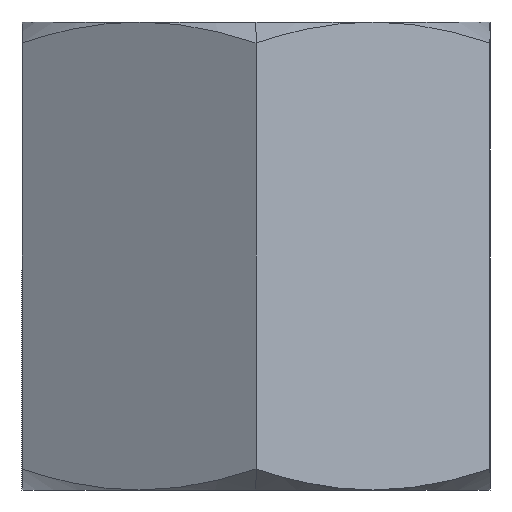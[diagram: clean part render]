
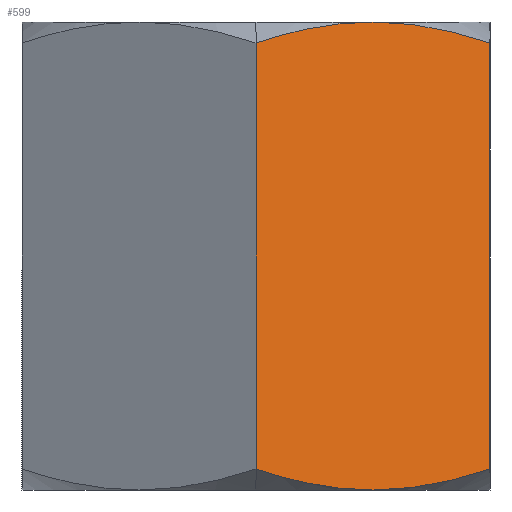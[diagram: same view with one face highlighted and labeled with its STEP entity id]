
A CAD part, left-side view. The second image highlights one B-rep face of the part: STEP entity #599.
In plain terms, the highlighted planar face has unit normal (-0.866, -0.5, 0).
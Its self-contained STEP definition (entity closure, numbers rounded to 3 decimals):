
#18 = CARTESIAN_POINT ( 'NONE',  ( -2.498, -3.674, -3.752 ) ) ;
#24 = CARTESIAN_POINT ( 'NONE',  ( -4.619, 0., -4. ) ) ;
#36 = CARTESIAN_POINT ( 'NONE',  ( -3.072, -2.678, 3.966 ) ) ;
#39 = ORIENTED_EDGE ( 'NONE', *, *, #374, .F. ) ;
#49 = B_SPLINE_CURVE_WITH_KNOTS ( 'NONE', 3,
 ( #287, #276, #553, #482, #18, #284 ),
 .UNSPECIFIED., .F., .F.,
 ( 4, 2, 4 ),
 ( 0.002, 0.004, 0.005 ),
 .UNSPECIFIED. ) ;
#71 = FACE_OUTER_BOUND ( 'NONE', #164, .T. ) ;
#106 = LINE ( 'NONE', #562, #673 ) ;
#107 = EDGE_CURVE ( 'NONE', #258, #458, #318, .T. ) ;
#110 = CARTESIAN_POINT ( 'NONE',  ( -3.464, -2., 4. ) ) ;
#113 = EDGE_CURVE ( 'NONE', #458, #851, #49, .T. ) ;
#125 = ORIENTED_EDGE ( 'NONE', *, *, #413, .T. ) ;
#142 = CARTESIAN_POINT ( 'NONE',  ( -4.619, 0., -4. ) ) ;
#157 = CARTESIAN_POINT ( 'NONE',  ( -4.619, 0., -3.643 ) ) ;
#164 = EDGE_LOOP ( 'NONE', ( #831, #575, #305, #481, #125, #39 ) ) ;
#165 = LINE ( 'NONE', #24, #745 ) ;
#193 = CARTESIAN_POINT ( 'NONE',  ( -4.619, 0., 3.643 ) ) ;
#252 = EDGE_CURVE ( 'NONE', #258, #555, #165, .T. ) ;
#258 = VERTEX_POINT ( 'NONE', #428 ) ;
#276 = CARTESIAN_POINT ( 'NONE',  ( -3.268, -2.339, -4. ) ) ;
#284 = CARTESIAN_POINT ( 'NONE',  ( -2.309, -4., -3.643 ) ) ;
#287 = CARTESIAN_POINT ( 'NONE',  ( -3.464, -2., -4. ) ) ;
#304 = CARTESIAN_POINT ( 'NONE',  ( -2.309, -4., 3.643 ) ) ;
#305 = ORIENTED_EDGE ( 'NONE', *, *, #107, .T. ) ;
#318 = B_SPLINE_CURVE_WITH_KNOTS ( 'NONE', 3,
 ( #157, #607, #479, #688 ),
 .UNSPECIFIED., .F., .F.,
 ( 4, 4 ),
 ( 0., 0.002 ),
 .UNSPECIFIED. ) ;
#337 = DIRECTION ( 'NONE',  ( -0.866, -0.5, 0. ) ) ;
#346 = CARTESIAN_POINT ( 'NONE',  ( -2.309, -4., -3.643 ) ) ;
#358 = CARTESIAN_POINT ( 'NONE',  ( -2.688, -3.345, 3.841 ) ) ;
#374 = EDGE_CURVE ( 'NONE', #394, #810, #572, .T. ) ;
#394 = VERTEX_POINT ( 'NONE', #501 ) ;
#413 = EDGE_CURVE ( 'NONE', #851, #810, #106, .T. ) ;
#428 = CARTESIAN_POINT ( 'NONE',  ( -4.619, 0., -3.643 ) ) ;
#444 = DIRECTION ( 'NONE',  ( 0., 0., 1. ) ) ;
#458 = VERTEX_POINT ( 'NONE', #577 ) ;
#469 = CARTESIAN_POINT ( 'NONE',  ( -3.464, -2., 4. ) ) ;
#479 = CARTESIAN_POINT ( 'NONE',  ( -3.858, -1.319, -4. ) ) ;
#481 = ORIENTED_EDGE ( 'NONE', *, *, #113, .T. ) ;
#482 = CARTESIAN_POINT ( 'NONE',  ( -2.688, -3.345, -3.841 ) ) ;
#501 = CARTESIAN_POINT ( 'NONE',  ( -3.464, -2., 4. ) ) ;
#553 = CARTESIAN_POINT ( 'NONE',  ( -3.072, -2.678, -3.966 ) ) ;
#555 = VERTEX_POINT ( 'NONE', #193 ) ;
#561 = DIRECTION ( 'NONE',  ( 0., 0., 1. ) ) ;
#562 = CARTESIAN_POINT ( 'NONE',  ( -2.309, -4., -4. ) ) ;
#572 = B_SPLINE_CURVE_WITH_KNOTS ( 'NONE', 3,
 ( #110, #643, #36, #358, #708, #304 ),
 .UNSPECIFIED., .F., .F.,
 ( 4, 2, 4 ),
 ( 0.002, 0.004, 0.005 ),
 .UNSPECIFIED. ) ;
#575 = ORIENTED_EDGE ( 'NONE', *, *, #252, .F. ) ;
#577 = CARTESIAN_POINT ( 'NONE',  ( -3.464, -2., -4. ) ) ;
#599 = ADVANCED_FACE ( 'NONE', ( #71 ), #809, .T. ) ;
#602 = CARTESIAN_POINT ( 'NONE',  ( -4.241, -0.654, 3.861 ) ) ;
#607 = CARTESIAN_POINT ( 'NONE',  ( -4.241, -0.654, -3.861 ) ) ;
#619 = CARTESIAN_POINT ( 'NONE',  ( -2.309, -4., 3.643 ) ) ;
#643 = CARTESIAN_POINT ( 'NONE',  ( -3.268, -2.339, 4. ) ) ;
#673 = VECTOR ( 'NONE', #444, 1000. ) ;
#683 = AXIS2_PLACEMENT_3D ( 'NONE', #142, #337, #730 ) ;
#688 = CARTESIAN_POINT ( 'NONE',  ( -3.464, -2., -4. ) ) ;
#692 = B_SPLINE_CURVE_WITH_KNOTS ( 'NONE', 3,
 ( #797, #602, #805, #469 ),
 .UNSPECIFIED., .F., .F.,
 ( 4, 4 ),
 ( 0., 0.002 ),
 .UNSPECIFIED. ) ;
#704 = EDGE_CURVE ( 'NONE', #555, #394, #692, .T. ) ;
#708 = CARTESIAN_POINT ( 'NONE',  ( -2.498, -3.674, 3.752 ) ) ;
#730 = DIRECTION ( 'NONE',  ( 0.5, -0.866, 0. ) ) ;
#745 = VECTOR ( 'NONE', #561, 1000. ) ;
#797 = CARTESIAN_POINT ( 'NONE',  ( -4.619, 0., 3.643 ) ) ;
#805 = CARTESIAN_POINT ( 'NONE',  ( -3.858, -1.319, 4. ) ) ;
#809 = PLANE ( 'NONE',  #683 ) ;
#810 = VERTEX_POINT ( 'NONE', #619 ) ;
#831 = ORIENTED_EDGE ( 'NONE', *, *, #704, .F. ) ;
#851 = VERTEX_POINT ( 'NONE', #346 ) ;
